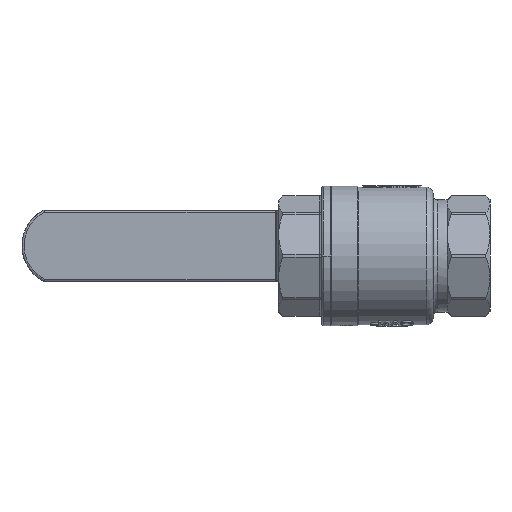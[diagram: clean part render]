
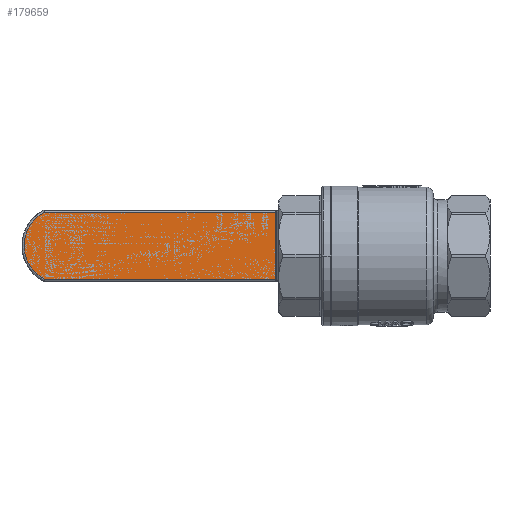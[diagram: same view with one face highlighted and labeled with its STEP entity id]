
A CAD part, front view. The second image highlights one B-rep face of the part: STEP entity #179659.
In plain terms, the highlighted planar face has unit normal (0, -1, 0).
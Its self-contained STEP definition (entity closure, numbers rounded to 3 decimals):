
#14725 = ORIENTED_EDGE ( 'NONE', *, *, #132532, .T. ) ;
#15688 = DIRECTION ( 'NONE',  ( 0., -1., 0. ) ) ;
#21170 = EDGE_CURVE ( 'NONE', #99532, #120408, #52849, .T. ) ;
#26152 = LINE ( 'NONE', #120181, #148126 ) ;
#39117 = PLANE ( 'NONE',  #189664 ) ;
#41298 = CARTESIAN_POINT ( 'NONE',  ( -123.134, -5., -17.45 ) ) ;
#44748 = ORIENTED_EDGE ( 'NONE', *, *, #164266, .T. ) ;
#52849 = CIRCLE ( 'NONE', #158008, 18.5 ) ;
#56660 = DIRECTION ( 'NONE',  ( 0., 0., -1. ) ) ;
#69237 = ORIENTED_EDGE ( 'NONE', *, *, #21170, .T. ) ;
#69496 = VECTOR ( 'NONE', #56660, 1000. ) ;
#72798 = VERTEX_POINT ( 'NONE', #168606 ) ;
#84183 = CARTESIAN_POINT ( 'NONE',  ( -123.567, -5., 16.45 ) ) ;
#85075 = DIRECTION ( 'NONE',  ( 0., 0., 1. ) ) ;
#86761 = FACE_OUTER_BOUND ( 'NONE', #96669, .T. ) ;
#86792 = CARTESIAN_POINT ( 'NONE',  ( -10.036, -5., 16.45 ) ) ;
#96669 = EDGE_LOOP ( 'NONE', ( #44748, #121931, #69237, #14725 ) ) ;
#99495 = DIRECTION ( 'NONE',  ( -1., 0., 0. ) ) ;
#99532 = VERTEX_POINT ( 'NONE', #131803 ) ;
#104853 = CARTESIAN_POINT ( 'NONE',  ( -123.134, -5., -16.45 ) ) ;
#107204 = CARTESIAN_POINT ( 'NONE',  ( -18.5, -5., 0. ) ) ;
#110033 = LINE ( 'NONE', #41298, #69496 ) ;
#115925 = VERTEX_POINT ( 'NONE', #104853 ) ;
#120181 = CARTESIAN_POINT ( 'NONE',  ( -124., -5., -16.45 ) ) ;
#120408 = VERTEX_POINT ( 'NONE', #86792 ) ;
#121931 = ORIENTED_EDGE ( 'NONE', *, *, #166264, .T. ) ;
#122692 = DIRECTION ( 'NONE',  ( 0., 0., 1. ) ) ;
#131803 = CARTESIAN_POINT ( 'NONE',  ( -10.036, -5., -16.45 ) ) ;
#132532 = EDGE_CURVE ( 'NONE', #120408, #72798, #186227, .T. ) ;
#136299 = VECTOR ( 'NONE', #99495, 1000. ) ;
#148126 = VECTOR ( 'NONE', #197267, 1000. ) ;
#158008 = AXIS2_PLACEMENT_3D ( 'NONE', #107204, #15688, #122692 ) ;
#164266 = EDGE_CURVE ( 'NONE', #72798, #115925, #110033, .T. ) ;
#166264 = EDGE_CURVE ( 'NONE', #115925, #99532, #26152, .T. ) ;
#168606 = CARTESIAN_POINT ( 'NONE',  ( -123.134, -5., 16.45 ) ) ;
#175841 = CARTESIAN_POINT ( 'NONE',  ( -124., -5., 16.45 ) ) ;
#176486 = DIRECTION ( 'NONE',  ( 0., 1., 0. ) ) ;
#179659 = ADVANCED_FACE ( 'NONE', ( #86761 ), #39117, .F. ) ;
#186227 = LINE ( 'NONE', #84183, #136299 ) ;
#189664 = AXIS2_PLACEMENT_3D ( 'NONE', #175841, #176486, #85075 ) ;
#197267 = DIRECTION ( 'NONE',  ( 1., 0., 0. ) ) ;
